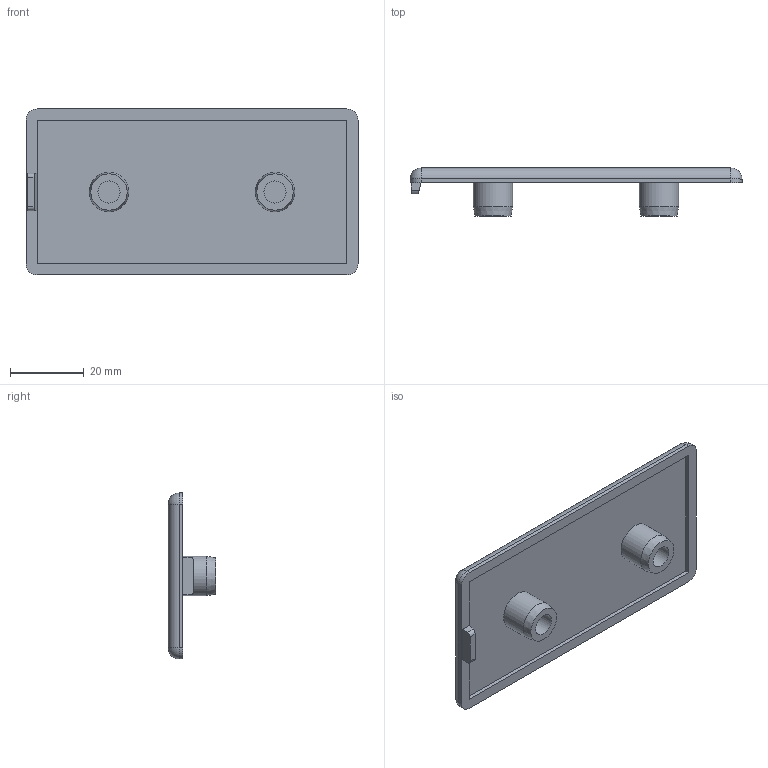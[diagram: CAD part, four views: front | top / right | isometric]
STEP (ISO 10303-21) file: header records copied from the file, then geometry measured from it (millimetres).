
FILE_DESCRIPTION(/* description */ ('STEP AP214'),/* implementation_level */ '2;1');
FILE_NAME(/* name */ '091064',/* time_stamp */ '2023-08-29T08:51:32+02:00',/* author */ ('License CC BY-ND 4.0'),/* organization */ ('CADENAS'),/* preprocessor_version */ 'ST-DEVELOPER v19.3',/* originating_system */ 'PARTsolutions',/* authorisation */ ' ');
FILE_SCHEMA (('AUTOMOTIVE_DESIGN {1 0 10303 214 3 1 1}'));
Length unit declared in the file: millimetre
Products named in the file (1): 091064
Bounding box: 90 x 13 x 45 mm (x, y, z)
Volume: 13655.4 mm3; surface area: 10126.2 mm2
Topology: 1 solids, 1 shells, 40 faces, 87 edges, 50 vertices
Faces by surface type: plane 20, cylinder 14, sphere 4, cone 2
Full cylindrical faces by diameter (mm): 6 x2, 10.7 x2
Entity records: 1049 total; most frequent: DIRECTION 189, CARTESIAN_POINT 168, ORIENTED_EDGE 154, EDGE_CURVE 77, AXIS2_PLACEMENT_3D 71, EDGE_LOOP 51, FACE_BOUND 51, VERTEX_POINT 50
